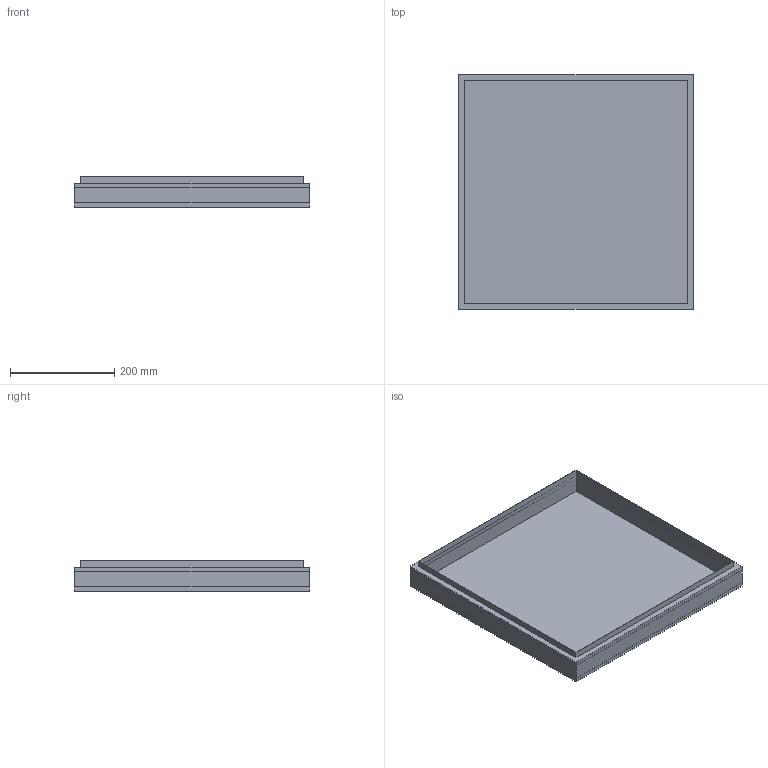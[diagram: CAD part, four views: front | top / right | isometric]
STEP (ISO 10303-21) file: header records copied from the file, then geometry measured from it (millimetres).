
FILE_DESCRIPTION(/* description */ (''),/* implementation_level */ '2;1');
FILE_NAME(/* name */ 'VT-7782.stp',/* time_stamp */ '2026-06-23T17:29:12+08:00',/* author */ (''),/* organization */ (''),/* preprocessor_version */ 'ST-DEVELOPER v16',/* originating_system */ 'SIEMENS PLM Software NX 10.0',/* authorisation */ '');
FILE_SCHEMA (('AP203_CONFIGURATION_CONTROLLED_3D_DESIGN_OF_MECHANICAL_PARTS_AND_ASSEMBLIES_MIM_LF { 1 0 10303 403 2 1 2}'));
Length unit declared in the file: millimetre
Products named in the file (1): 1610850A12vap
Bounding box: 450 x 450 x 58 mm (x, y, z)
Volume: 1102341.6 mm3; surface area: 813331.5 mm2
Topology: 4 solids, 4 shells, 41 faces, 96 edges, 64 vertices
Faces by surface type: plane 41
Entity records: 1248 total; most frequent: CARTESIAN_POINT 202, ORIENTED_EDGE 192, DIRECTION 180, EDGE_CURVE 96, LINE 96, VECTOR 96, VERTEX_POINT 64, EDGE_LOOP 48
